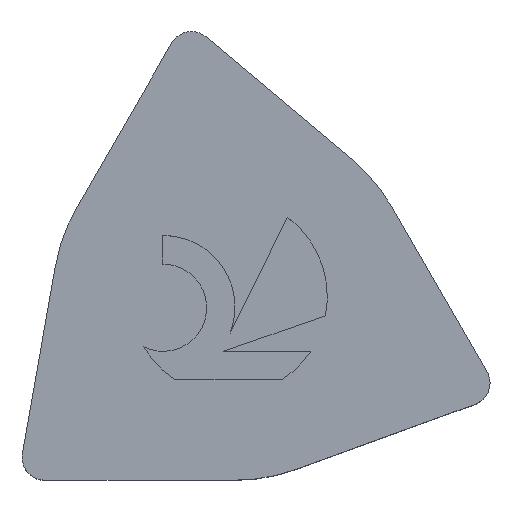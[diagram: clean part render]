
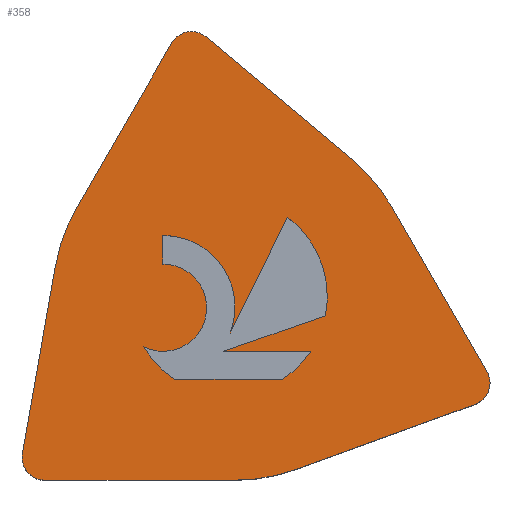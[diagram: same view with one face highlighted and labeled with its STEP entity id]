
A CAD part, top view. The second image highlights one B-rep face of the part: STEP entity #358.
In plain terms, the highlighted planar face has unit normal (0, 0, 1).
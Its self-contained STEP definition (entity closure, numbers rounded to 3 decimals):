
#170=EDGE_CURVE('',#410,#186,#470,.T.);
#172=EDGE_CURVE('',#300,#330,#472,.T.);
#174=VERTEX_POINT('',#474);
#176=VERTEX_POINT('',#476);
#180=VERTEX_POINT('',#480);
#186=VERTEX_POINT('',#487);
#204=EDGE_CURVE('',#440,#254,#508,.T.);
#208=EDGE_CURVE('',#298,#304,#512,.T.);
#216=EDGE_CURVE('',#234,#442,#520,.T.);
#224=EDGE_CURVE('',#304,#400,#528,.T.);
#226=VERTEX_POINT('',#530);
#232=EDGE_CURVE('',#176,#298,#536,.T.);
#234=VERTEX_POINT('',#538);
#254=VERTEX_POINT('',#560);
#264=VERTEX_POINT('',#572);
#266=VERTEX_POINT('',#574);
#274=VERTEX_POINT('',#584);
#282=EDGE_CURVE('',#174,#266,#594,.T.);
#288=EDGE_CURVE('',#336,#410,#600,.T.);
#290=VERTEX_POINT('',#602);
#292=EDGE_CURVE('',#264,#408,#604,.T.);
#296=EDGE_CURVE('',#442,#290,#609,.T.);
#298=VERTEX_POINT('',#611);
#300=VERTEX_POINT('',#613);
#304=VERTEX_POINT('',#618);
#318=EDGE_CURVE('',#186,#264,#634,.T.);
#324=EDGE_CURVE('',#368,#300,#640,.T.);
#326=EDGE_CURVE('',#226,#402,#642,.T.);
#328=EDGE_CURVE('',#290,#226,#644,.T.);
#330=VERTEX_POINT('',#646);
#332=EDGE_CURVE('',#402,#440,#648,.T.);
#336=VERTEX_POINT('',#653);
#358=ADVANCED_FACE('',(#677,#678),#679,.T.);
#360=EDGE_CURVE('',#254,#176,#681,.T.);
#362=EDGE_CURVE('',#408,#180,#683,.T.);
#366=EDGE_CURVE('',#274,#368,#687,.T.);
#368=VERTEX_POINT('',#689);
#400=VERTEX_POINT('',#725);
#402=VERTEX_POINT('',#727);
#408=VERTEX_POINT('',#734);
#410=VERTEX_POINT('',#736);
#414=EDGE_CURVE('',#330,#174,#740,.T.);
#418=EDGE_CURVE('',#266,#336,#744,.T.);
#432=EDGE_CURVE('',#400,#234,#758,.T.);
#440=VERTEX_POINT('',#767);
#442=VERTEX_POINT('',#769);
#446=EDGE_CURVE('',#180,#274,#773,.T.);
#470=LINE('',#792,#793);
#472=CIRCLE('',#796,6.35);
#474=CARTESIAN_POINT('',(0.164,0.932,0.0));
#476=CARTESIAN_POINT('',(4.393,4.658,0.0));
#480=CARTESIAN_POINT('',(11.649,11.214,0.0));
#487=CARTESIAN_POINT('',(15.962,2.648,0.0));
#508=LINE('',#841,#842);
#512=CIRCLE('',#849,1.522);
#520=LINE('',#860,#861);
#528=LINE('',#874,#875);
#530=CARTESIAN_POINT('',(7.186,4.501,0.0));
#536=CIRCLE('',#888,1.522);
#538=CARTESIAN_POINT('',(7.42,5.137,0.0));
#560=CARTESIAN_POINT('',(5.483,3.52,0.0));
#572=CARTESIAN_POINT('',(16.378,3.791,0.0));
#574=CARTESIAN_POINT('',(0.946,0.0,0.0));
#584=CARTESIAN_POINT('',(6.577,15.471,0.0));
#594=CIRCLE('',#962,0.794);
#600=CIRCLE('',#970,6.35);
#602=CARTESIAN_POINT('',(10.742,5.736,0.0));
#604=LINE('',#975,#976);
#609=CIRCLE('',#982,3.447);
#611=CARTESIAN_POINT('',(5.754,7.38,0.0));
#613=CARTESIAN_POINT('',(2.068,9.525,0.0));
#618=CARTESIAN_POINT('',(5.064,7.54,0.0));
#634=CIRCLE('',#1011,0.794);
#640=LINE('',#1018,#1019);
#642=LINE('',#1022,#1023);
#644=LINE('',#1026,#1027);
#646=CARTESIAN_POINT('',(1.314,7.453,0.0));
#648=CIRCLE('',#1032,3.447);
#653=CARTESIAN_POINT('',(7.568,0.0,0.0));
#677=FACE_BOUND('',#1068,.T.);
#678=FACE_OUTER_BOUND('',#1069,.T.);
#679=PLANE('',#1070);
#681=CIRCLE('',#1073,3.447);
#683=CIRCLE('',#1076,6.35);
#687=CIRCLE('',#1083,0.794);
#689=CARTESIAN_POINT('',(5.379,15.259,0.0));
#725=CARTESIAN_POINT('',(5.064,8.541,0.0));
#727=CARTESIAN_POINT('',(10.232,4.501,0.0));
#734=CARTESIAN_POINT('',(13.067,9.525,0.0));
#736=CARTESIAN_POINT('',(9.739,0.383,0.0));
#740=LINE('',#1151,#1152);
#744=LINE('',#1157,#1158);
#758=CIRCLE('',#1182,2.504);
#767=CARTESIAN_POINT('',(9.24,3.52,0.0));
#769=CARTESIAN_POINT('',(9.414,9.18,0.0));
#773=LINE('',#1200,#1201);
#792=CARTESIAN_POINT('',(9.739,0.383,0.0));
#793=VECTOR('',#1209,1.0);
#796=AXIS2_PLACEMENT_3D('',#1210,#1211,#1212);
#841=CARTESIAN_POINT('',(6.525,3.52,0.0));
#842=VECTOR('',#1254,1.0);
#849=AXIS2_PLACEMENT_3D('',#1256,#1257,#1258);
#860=CARTESIAN_POINT('',(8.672,7.676,0.0));
#861=VECTOR('',#1260,1.0);
#874=CARTESIAN_POINT('',(5.064,7.445,0.0));
#875=VECTOR('',#1263,1.0);
#888=AXIS2_PLACEMENT_3D('',#1266,#1267,#1268);
#962=AXIS2_PLACEMENT_3D('',#1356,#1357,#1358);
#970=AXIS2_PLACEMENT_3D('',#1362,#1363,#1364);
#975=CARTESIAN_POINT('',(16.378,3.791,0.0));
#976=VECTOR('',#1365,1.0);
#982=AXIS2_PLACEMENT_3D('',#1374,#1375,#1376);
#1011=AXIS2_PLACEMENT_3D('',#1405,#1406,#1407);
#1018=CARTESIAN_POINT('',(5.379,15.259,0.0));
#1019=VECTOR('',#1408,1.0);
#1022=CARTESIAN_POINT('',(8.9,4.501,0.0));
#1023=VECTOR('',#1409,1.0);
#1026=CARTESIAN_POINT('',(7.643,4.66,0.0));
#1027=VECTOR('',#1410,1.0);
#1032=AXIS2_PLACEMENT_3D('',#1411,#1412,#1413);
#1068=EDGE_LOOP('',(#1449,#1450,#1451,#1452,#1453,#1454,#1455,#1456,#1457,#1458,#1459));
#1069=EDGE_LOOP('',(#1460,#1461,#1462,#1463,#1464,#1465,#1466,#1467,#1468,#1469,#1470,#1471));
#1070=AXIS2_PLACEMENT_3D('',#1472,#1473,#1474);
#1073=AXIS2_PLACEMENT_3D('',#1475,#1476,#1477);
#1076=AXIS2_PLACEMENT_3D('',#1478,#1479,#1480);
#1083=AXIS2_PLACEMENT_3D('',#1482,#1483,#1484);
#1151=CARTESIAN_POINT('',(1.314,7.453,0.0));
#1152=VECTOR('',#1544,1.0);
#1157=CARTESIAN_POINT('',(0.946,0.0,0.0));
#1158=VECTOR('',#1545,1.0);
#1182=AXIS2_PLACEMENT_3D('',#1553,#1554,#1555);
#1200=CARTESIAN_POINT('',(11.649,11.214,0.0));
#1201=VECTOR('',#1565,1.0);
#1209=DIRECTION('',(0.94,0.342,0.0));
#1210=CARTESIAN_POINT('',(7.568,6.35,0.0));
#1211=DIRECTION('',(0.0,0.0,1.0));
#1212=DIRECTION('',(-0.866,0.5,0.0));
#1254=DIRECTION('',(-1.0,0.0,0.0));
#1256=CARTESIAN_POINT('',(5.073,6.019,0.0));
#1257=DIRECTION('',(0.0,0.0,1.0));
#1258=DIRECTION('',(-0.447,-0.894,0.0));
#1260=DIRECTION('',(0.442,0.897,-0.0));
#1263=DIRECTION('',(0.0,1.0,0.0));
#1266=CARTESIAN_POINT('',(5.073,6.019,0.0));
#1267=DIRECTION('',(0.0,0.0,1.0));
#1268=DIRECTION('',(-0.447,-0.894,0.0));
#1356=CARTESIAN_POINT('',(0.946,0.794,0.0));
#1357=DIRECTION('',(0.0,0.0,1.0));
#1358=DIRECTION('',(-0.985,0.174,0.0));
#1362=CARTESIAN_POINT('',(7.568,6.35,0.0));
#1363=DIRECTION('',(0.0,0.0,1.0));
#1364=DIRECTION('',(0.,-1.0,0.0));
#1365=DIRECTION('',(-0.5,0.866,0.0));
#1374=CARTESIAN_POINT('',(7.361,6.41,0.0));
#1375=DIRECTION('',(0.0,-0.0,-1.0));
#1376=DIRECTION('',(0.981,-0.196,0.0));
#1405=CARTESIAN_POINT('',(15.69,3.394,0.0));
#1406=DIRECTION('',(0.0,0.0,1.0));
#1407=DIRECTION('',(0.342,-0.94,0.0));
#1408=DIRECTION('',(-0.5,-0.866,0.0));
#1409=DIRECTION('',(1.0,0.0,0.0));
#1410=DIRECTION('',(-0.945,-0.328,0.0));
#1411=CARTESIAN_POINT('',(7.361,6.41,0.0));
#1412=DIRECTION('',(0.0,-0.0,-1.0));
#1413=DIRECTION('',(0.545,-0.838,0.0));
#1449=ORIENTED_EDGE('',*,*,#224,.T.);
#1450=ORIENTED_EDGE('',*,*,#432,.T.);
#1451=ORIENTED_EDGE('',*,*,#216,.T.);
#1452=ORIENTED_EDGE('',*,*,#296,.T.);
#1453=ORIENTED_EDGE('',*,*,#328,.T.);
#1454=ORIENTED_EDGE('',*,*,#326,.T.);
#1455=ORIENTED_EDGE('',*,*,#332,.T.);
#1456=ORIENTED_EDGE('',*,*,#204,.T.);
#1457=ORIENTED_EDGE('',*,*,#360,.T.);
#1458=ORIENTED_EDGE('',*,*,#232,.T.);
#1459=ORIENTED_EDGE('',*,*,#208,.T.);
#1460=ORIENTED_EDGE('',*,*,#418,.T.);
#1461=ORIENTED_EDGE('',*,*,#288,.T.);
#1462=ORIENTED_EDGE('',*,*,#170,.T.);
#1463=ORIENTED_EDGE('',*,*,#318,.T.);
#1464=ORIENTED_EDGE('',*,*,#292,.T.);
#1465=ORIENTED_EDGE('',*,*,#362,.T.);
#1466=ORIENTED_EDGE('',*,*,#446,.T.);
#1467=ORIENTED_EDGE('',*,*,#366,.T.);
#1468=ORIENTED_EDGE('',*,*,#324,.T.);
#1469=ORIENTED_EDGE('',*,*,#172,.T.);
#1470=ORIENTED_EDGE('',*,*,#414,.T.);
#1471=ORIENTED_EDGE('',*,*,#282,.T.);
#1472=CARTESIAN_POINT('',(7.568,6.35,0.0));
#1473=DIRECTION('',(0.0,0.0,1.0));
#1474=DIRECTION('',(1.0,0.0,0.0));
#1475=CARTESIAN_POINT('',(7.361,6.41,0.0));
#1476=DIRECTION('',(-0.0,0.0,-1.0));
#1477=DIRECTION('',(-0.861,-0.508,0.0));
#1478=CARTESIAN_POINT('',(7.568,6.35,0.0));
#1479=DIRECTION('',(0.0,-0.0,1.0));
#1480=DIRECTION('',(0.866,0.5,0.0));
#1482=CARTESIAN_POINT('',(6.067,14.862,0.0));
#1483=DIRECTION('',(0.0,-0.0,1.0));
#1484=DIRECTION('',(0.643,0.766,0.0));
#1544=DIRECTION('',(-0.174,-0.985,0.0));
#1545=DIRECTION('',(1.0,0.0,0.0));
#1553=CARTESIAN_POINT('',(5.083,6.037,0.0));
#1554=DIRECTION('',(0.0,-0.0,-1.0));
#1555=DIRECTION('',(0.933,-0.359,0.0));
#1565=DIRECTION('',(-0.766,0.643,0.0));
